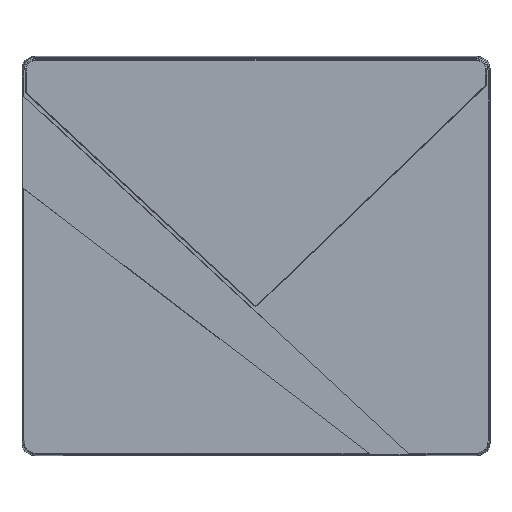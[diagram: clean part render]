
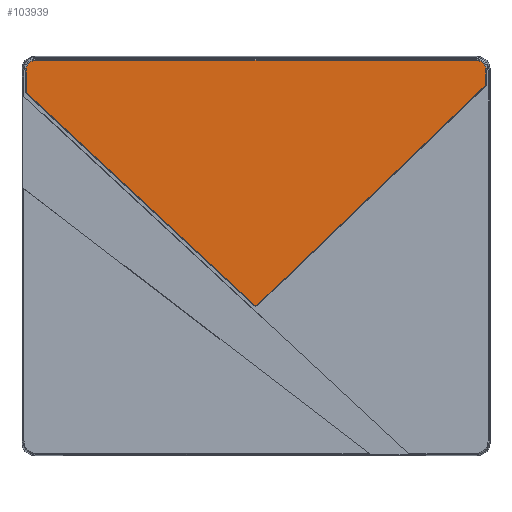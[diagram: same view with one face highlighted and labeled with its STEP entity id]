
A CAD part, top view. The second image highlights one B-rep face of the part: STEP entity #103939.
In plain terms, the highlighted planar face has unit normal (0, 0, 1).
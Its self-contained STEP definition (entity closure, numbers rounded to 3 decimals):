
#103739=CARTESIAN_POINT('',(-160.1,135.1,100.));
#103740=DIRECTION('',(0.,0.,1.));
#103741=DIRECTION('',(0.,1.,0.));
#103742=AXIS2_PLACEMENT_3D('',#103739,#103740,#103741);
#103747=DIRECTION('',(-1.,0.,0.));
#103748=VECTOR('',#103747,320.2);
#103749=CARTESIAN_POINT('',(160.1,142.,100.));
#103750=LINE('',#103749,#103748);
#103754=CARTESIAN_POINT('',(160.1,135.1,100.));
#103755=DIRECTION('',(0.,0.,1.));
#103756=DIRECTION('',(1.,0.,0.));
#103757=AXIS2_PLACEMENT_3D('',#103754,#103755,#103756);
#103762=DIRECTION('',(0.,1.,0.));
#103763=VECTOR('',#103762,11.035);
#103764=CARTESIAN_POINT('',(167.,124.065,100.));
#103765=LINE('',#103764,#103763);
#103769=DIRECTION('',(0.721,0.693,0.));
#103770=VECTOR('',#103769,231.608);
#103771=CARTESIAN_POINT('',(-0.035,-36.376,100.));
#103772=LINE('',#103771,#103770);
#103776=DIRECTION('',(0.733,-0.68,0.));
#103777=VECTOR('',#103776,227.805);
#103778=CARTESIAN_POINT('',(-167.,118.601,100.));
#103779=LINE('',#103778,#103777);
#103783=DIRECTION('',(0.,-1.,0.));
#103784=VECTOR('',#103783,16.499);
#103785=CARTESIAN_POINT('',(-167.,135.1,100.));
#103786=LINE('',#103785,#103784);
#103890=CARTESIAN_POINT('',(-0.035,-36.376,100.));
#103891=CARTESIAN_POINT('',(167.,124.065,100.));
#103892=VERTEX_POINT('',#103890);
#103893=VERTEX_POINT('',#103891);
#103894=CARTESIAN_POINT('',(-167.,118.601,100.));
#103895=VERTEX_POINT('',#103894);
#103906=CARTESIAN_POINT('',(-160.1,142.,100.));
#103907=VERTEX_POINT('',#103906);
#103908=CARTESIAN_POINT('',(-167.,135.1,100.));
#103909=VERTEX_POINT('',#103908);
#103914=CARTESIAN_POINT('',(167.,135.1,100.));
#103915=VERTEX_POINT('',#103914);
#103916=CARTESIAN_POINT('',(160.1,142.,100.));
#103917=VERTEX_POINT('',#103916);
#103918=CARTESIAN_POINT('',(0.,0.,100.));
#103919=DIRECTION('',(0.,0.,1.));
#103920=DIRECTION('',(1.,0.,0.));
#103921=AXIS2_PLACEMENT_3D('',#103918,#103919,#103920);
#103922=PLANE('',#103921);
#103924=ORIENTED_EDGE('',*,*,#103923,.F.);
#103926=ORIENTED_EDGE('',*,*,#103925,.F.);
#103928=ORIENTED_EDGE('',*,*,#103927,.F.);
#103930=ORIENTED_EDGE('',*,*,#103929,.F.);
#103932=ORIENTED_EDGE('',*,*,#103931,.F.);
#103934=ORIENTED_EDGE('',*,*,#103933,.F.);
#103936=ORIENTED_EDGE('',*,*,#103935,.F.);
#103937=EDGE_LOOP('',(#103924,#103926,#103928,#103930,#103932,#103934,#103936));
#103938=FACE_OUTER_BOUND('',#103937,.F.);
#103743=CIRCLE('',#103742,6.9);
#103758=CIRCLE('',#103757,6.9);
#103923=EDGE_CURVE('',#103907,#103909,#103743,.T.);
#103925=EDGE_CURVE('',#103917,#103907,#103750,.T.);
#103927=EDGE_CURVE('',#103915,#103917,#103758,.T.);
#103929=EDGE_CURVE('',#103893,#103915,#103765,.T.);
#103931=EDGE_CURVE('',#103892,#103893,#103772,.T.);
#103933=EDGE_CURVE('',#103895,#103892,#103779,.T.);
#103935=EDGE_CURVE('',#103909,#103895,#103786,.T.);
#103939=ADVANCED_FACE('',(#103938),#103922,.T.);
